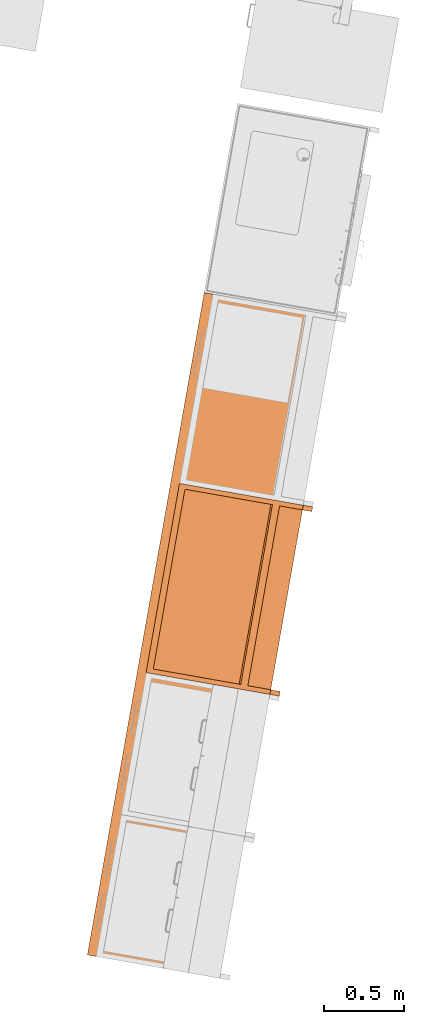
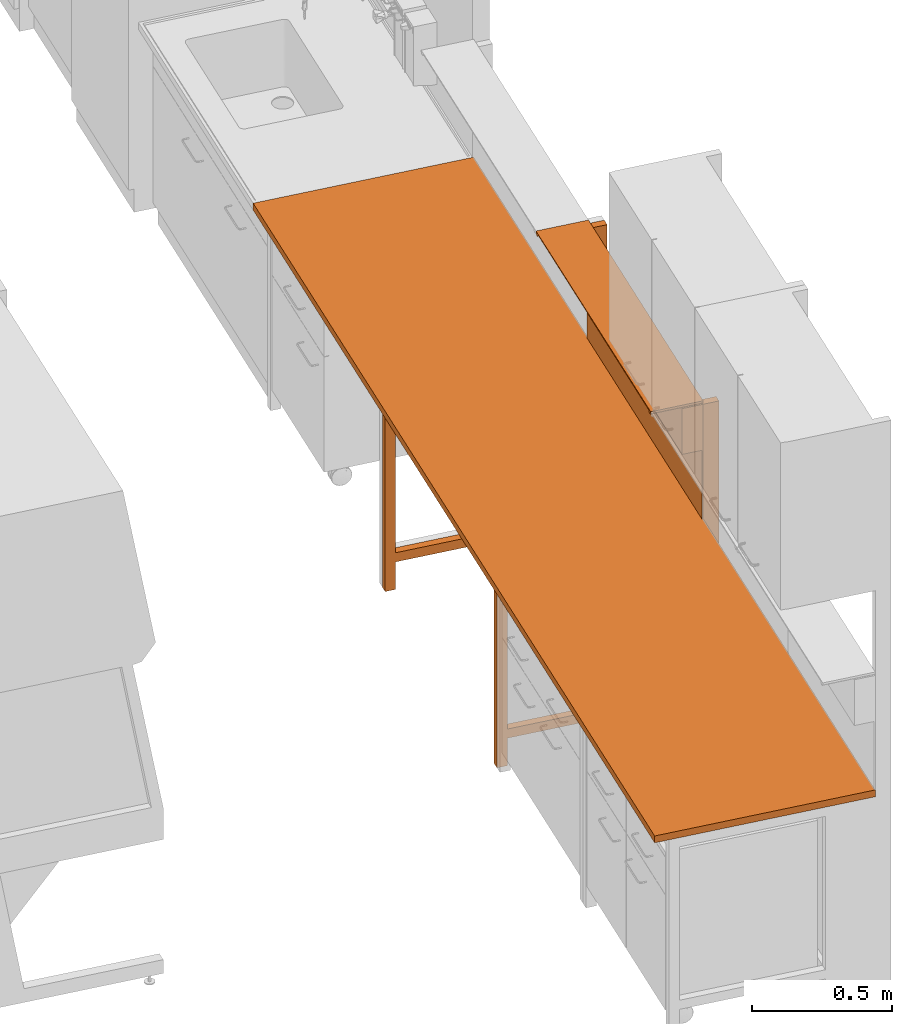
# One storey, part 28 of 43: 3 proxies.
"""IFC2X3 building model written with IfcOpenShell, lengths in metres."""

from ifc_helpers import new_model, entity, si_unit, converted_unit, derived_unit, direction, frame, frame_2d, origin, origin_2d_with_axis, place, context, subcontext, project, spatial, polyline, circle_curve, parameter, trimmed, segment, composite_curve, rectangle, outline, extrude, faceted_brep, source, transform, mapped, material, material_list, type_object, type_shapes, element, save


model = new_model("IFC2X3")

# Units and contexts
model_context = context("Model", 3, precision=1e-05, world=origin(), true_north=direction((6.12303176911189e-17, 1.0)))
body_context = subcontext(model_context, "Body", "Model", "MODEL_VIEW")
ifc_project = project(units=[si_unit("LENGTHUNIT", "METRE"), si_unit("AREAUNIT", "SQUARE_METRE"), si_unit("VOLUMEUNIT", "CUBIC_METRE"), converted_unit("PLANEANGLEUNIT", "DEGREE", entity("IfcRatioMeasure", 0.0174532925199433), si_unit("PLANEANGLEUNIT", "RADIAN"), dimensions=[0, 0, 0, 0, 0, 0, 0]), si_unit("MASSUNIT", "GRAM", prefix="KILO"), derived_unit("MASSDENSITYUNIT", [(si_unit("MASSUNIT", "GRAM", prefix="KILO"), 1), (si_unit("LENGTHUNIT", "METRE"), -3)]), derived_unit("MOMENTOFINERTIAUNIT", [(si_unit("LENGTHUNIT", "METRE"), 4)]), si_unit("TIMEUNIT", "SECOND"), si_unit("FREQUENCYUNIT", "HERTZ"), si_unit("THERMODYNAMICTEMPERATUREUNIT", "DEGREE_CELSIUS"), derived_unit("THERMALTRANSMITTANCEUNIT", [(si_unit("MASSUNIT", "GRAM", prefix="KILO"), 1), (si_unit("THERMODYNAMICTEMPERATUREUNIT", "KELVIN"), -1), (si_unit("TIMEUNIT", "SECOND"), -3)]), derived_unit("VOLUMETRICFLOWRATEUNIT", [(si_unit("LENGTHUNIT", "METRE"), 3), (si_unit("TIMEUNIT", "SECOND"), -1)]), si_unit("ELECTRICCURRENTUNIT", "AMPERE"), si_unit("ELECTRICVOLTAGEUNIT", "VOLT"), si_unit("POWERUNIT", "WATT"), si_unit("FORCEUNIT", "NEWTON", prefix="KILO"), si_unit("ILLUMINANCEUNIT", "LUX"), si_unit("LUMINOUSFLUXUNIT", "LUMEN"), si_unit("LUMINOUSINTENSITYUNIT", "CANDELA"), derived_unit("USERDEFINED", [(si_unit("MASSUNIT", "GRAM", prefix="KILO"), -1), (si_unit("LENGTHUNIT", "METRE"), -2), (si_unit("TIMEUNIT", "SECOND"), 3), (si_unit("LUMINOUSFLUXUNIT", "LUMEN"), 1)]), derived_unit("LINEARVELOCITYUNIT", [(si_unit("LENGTHUNIT", "METRE"), 1), (si_unit("TIMEUNIT", "SECOND"), -1)]), si_unit("PRESSUREUNIT", "PASCAL"), derived_unit("USERDEFINED", [(si_unit("LENGTHUNIT", "METRE"), -2), (si_unit("MASSUNIT", "GRAM", prefix="KILO"), 1), (si_unit("TIMEUNIT", "SECOND"), -2)]), derived_unit("LINEARFORCEUNIT", [(si_unit("MASSUNIT", "GRAM", prefix="KILO"), 1), (si_unit("LENGTHUNIT", "METRE"), 1), (si_unit("TIMEUNIT", "SECOND"), -2), (si_unit("LENGTHUNIT", "METRE"), -1)]), derived_unit("PLANARFORCEUNIT", [(si_unit("MASSUNIT", "GRAM", prefix="KILO"), 1), (si_unit("LENGTHUNIT", "METRE"), 1), (si_unit("TIMEUNIT", "SECOND"), -2), (si_unit("LENGTHUNIT", "METRE"), -2)])], contexts=[model_context])

# Site, building, storey
site_placement = place(None, origin())
site = spatial("IfcSite", under=ifc_project, at=site_placement, Name="Default", CompositionType="ELEMENT")
building_placement = place(site_placement, origin())
building = spatial("IfcBuilding", under=site, at=building_placement, CompositionType="ELEMENT")
storey_placement = place(building_placement, frame((0.0, 0.0, 3.0)))
storey = spatial("IfcBuildingStorey", under=building, at=storey_placement, Name="01 OG", CompositionType="ELEMENT", Elevation=3.0)

# Proxies
ifc_material_1 = material(Name="dh_Weiß")
ifc_material_2 = material(Name="dh_Glas WHS")
ifc_material_3 = material(Name="dh_Blau")
ifc_material_list_1 = material_list([ifc_material_1, ifc_material_2, ifc_material_3])
ifc_material_list_2 = material_list([ifc_material_2, ifc_material_3, ifc_material_1])
building_element_proxy_type_1 = type_object("IfcBuildingElementProxyType", Name="dh_Medienwand WHA:120 Stehtisch", PredefinedType="NOTDEFINED", material=ifc_material_list_2)
shared_shape_1 = source(origin(), body_context, "Body", "SweptSolid", [
    extrude(outline(composite_curve([segment(trimmed(circle_curve(frame_2d((0.0, 0.0), x_axis=(-1.0, 0.0)), 0.01), [parameter(0.0)], [parameter(180.0)], True, "PARAMETER"), True, "CONTINUOUS"), segment(polyline([(0.01, 0.0), (-0.01, 0.0)]), True, "CONTINUOUS")], self_intersect=False)), frame((-0.589999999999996, 0.1, 1.40999999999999), z_axis=(0.0, -1.0, 0.0), x_axis=(1.0, 0.0, 0.0)), (0.0, 0.0, -1.0), 0.2),
    extrude(outline(composite_curve([segment(trimmed(circle_curve(origin_2d_with_axis(), 0.00999999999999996), [parameter(0.0)], [parameter(180.0)], True, "PARAMETER"), True, "CONTINUOUS"), segment(polyline([(-0.0099999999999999, 0.0), (0.0099999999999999, 0.0)]), True, "CONTINUOUS")], self_intersect=False)), frame((0.590000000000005, 0.1, 1.40999999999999), z_axis=(0.0, 1.0, 0.0), x_axis=(1.0, 0.0, 0.0)), (0.0, 0.0, 1.0), 0.2),
    extrude(rectangle(XDim=1.2, YDim=0.2, at=origin_2d_with_axis()), frame((0.0, 0.2, 1.40999999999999), z_axis=(0.0, 0.0, 1.0), x_axis=(-1.0, 0.0, 0.0)), (0.0, 0.0, 1.0), 0.00499999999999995),
    extrude(rectangle(XDim=0.00500000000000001, YDim=1.2, at=frame_2d((-3.38271077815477e-17, 0.0), x_axis=(1.0, 0.0))), frame((0.0, 0.2975, 0.900000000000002), z_axis=(0.0, 0.0, 1.0), x_axis=(0.0, 1.0, 0.0)), (0.0, 0.0, 1.0), 0.299999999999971),
    extrude(rectangle(XDim=1.2, YDim=0.08, at=frame_2d((0.0, 3.46944695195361e-17), x_axis=(1.0, 0.0))), frame((0.0, 0.26, 1.20000000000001), z_axis=(0.0, 0.0, 1.0), x_axis=(-1.0, 0.0, 0.0)), (0.0, 0.0, 1.0), 0.199999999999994),
])
type_shapes(building_element_proxy_type_1, [shared_shape_1])
proxy_1_placement = place(storey_placement, frame((28.9226022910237, 8.24983662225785, 0.0), z_axis=(0.0, 0.0, 1.0), x_axis=(-0.173648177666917, -0.98480775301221, 0.0)))
element("IfcBuildingElementProxy", 1, at=proxy_1_placement, inside=storey, type_object=building_element_proxy_type_1, material=ifc_material_list_1, Name="dh_Medienwand WHA:120 Stehtisch", ObjectType="dh_Medienwand WHA:120 Stehtisch", context=body_context, shape_type="MappedRepresentation", body=[
    mapped(shared_shape_1, transform((0.0, 0.0, 0.0), scale=1.0)),
])
ifc_material_4 = material(Name="dh_EZ blau")
ifc_material_5 = material(Name="Stopper")
ifc_material_list_3 = material_list([ifc_material_4, ifc_material_5, ifc_material_1])
ifc_material_6 = material(Name="<Unnamed>")
ifc_material_list_4 = material_list([ifc_material_1, ifc_material_6, ifc_material_4])
building_element_proxy_type_2 = type_object("IfcBuildingElementProxyType", Name="dh_Energiezelle ST:EZ_ST120 ohne WHS WHA", PredefinedType="NOTDEFINED", material=ifc_material_list_4)
shared_shape_2 = source(origin(), body_context, "Body", "Brep", [
    faceted_brep([(0.57, 0.0599999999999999, 1.4), (0.57, 0.0, 1.4), (0.6, 0.0, 1.4), (0.6, 0.0599999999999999, 1.4), (0.57, 0.0599999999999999, 0.0), (0.57, 0.0, 0.0), (0.6, 0.0, 0.0), (0.6, 0.0599999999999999, 0.0)], [[[0, 1, 2, 3]], [[1, 0, 4, 5]], [[2, 1, 5, 6]], [[3, 2, 6, 7]], [[0, 3, 7, 4]], [[4, 7, 6, 5]]]),
    faceted_brep([(-0.57, 0.0600000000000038, 0.0), (-0.57, 0.0, 0.0), (-0.6, 0.0, 0.0), (-0.6, 0.0600000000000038, 0.0), (-0.6, 0.0600000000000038, 1.4), (-0.57, 0.0600000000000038, 1.4), (-0.6, 0.0, 1.4), (-0.57, 0.0, 1.4)], [[[0, 1, 2, 3]], [[4, 5, 0, 3]], [[6, 4, 3, 2]], [[7, 6, 2, 1]], [[5, 7, 1, 0]], [[5, 4, 6, 7]]]),
    faceted_brep([(-0.599999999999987, -0.150000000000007, 0.01), (-0.599999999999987, -0.190000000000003, 0.01), (-0.570000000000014, -0.190000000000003, 0.01), (-0.570000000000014, -0.150000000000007, 0.01), (-0.599999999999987, -0.150000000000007, 0.0), (-0.599999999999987, -0.190000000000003, 0.0), (-0.570000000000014, -0.190000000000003, 0.0), (-0.570000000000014, -0.150000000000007, 0.0)], [[[0, 1, 2, 3]], [[1, 0, 4, 5]], [[2, 1, 5, 6]], [[3, 2, 6, 7]], [[0, 3, 7, 4]], [[4, 7, 6, 5]]]),
    faceted_brep([(-0.599999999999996, -0.745000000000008, 0.0), (-0.570000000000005, -0.745000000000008, 0.0), (-0.570000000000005, -0.785000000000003, 0.0), (-0.599999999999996, -0.785000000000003, 0.0), (-0.599999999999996, -0.785000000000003, 0.01), (-0.599999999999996, -0.745000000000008, 0.01), (-0.570000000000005, -0.785000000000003, 0.01), (-0.570000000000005, -0.745000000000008, 0.01)], [[[0, 1, 2, 3]], [[4, 5, 0, 3]], [[6, 4, 3, 2]], [[7, 6, 2, 1]], [[5, 7, 1, 0]], [[5, 4, 6, 7]]]),
    faceted_brep([(0.569999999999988, -0.190000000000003, 0.01), (0.569999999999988, -0.150000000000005, 0.01), (0.569999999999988, -0.150000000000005, 0.0), (0.569999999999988, -0.190000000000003, 0.0), (0.600000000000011, -0.190000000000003, 0.01), (0.600000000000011, -0.190000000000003, 0.0), (0.600000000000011, -0.150000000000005, 0.01), (0.600000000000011, -0.150000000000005, 0.0)], [[[0, 1, 2, 3]], [[4, 0, 3, 5]], [[6, 4, 5, 7]], [[1, 6, 7, 2]], [[2, 7, 5, 3]], [[1, 0, 4, 6]]]),
    faceted_brep([(0.569999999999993, -0.784999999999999, 0.01), (0.569999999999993, -0.744999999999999, 0.01), (0.569999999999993, -0.744999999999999, 0.0), (0.569999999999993, -0.784999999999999, 0.0), (0.600000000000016, -0.784999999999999, 0.01), (0.600000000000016, -0.784999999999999, 0.0), (0.600000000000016, -0.744999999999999, 0.01), (0.600000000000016, -0.744999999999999, 0.0)], [[[0, 1, 2, 3]], [[4, 0, 3, 5]], [[6, 4, 5, 7]], [[1, 6, 7, 2]], [[2, 7, 5, 3]], [[1, 0, 4, 6]]]),
    faceted_brep([(0.569999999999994, -0.150000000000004, 0.87), (0.569999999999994, -0.145000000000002, 0.87), (-0.570000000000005, -0.145000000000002, 0.87), (-0.570000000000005, -0.150000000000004, 0.87), (0.569999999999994, -0.150000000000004, 0.0), (-0.570000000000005, -0.150000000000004, 0.0), (-0.570000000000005, -0.145000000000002, 0.0), (0.569999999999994, -0.145000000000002, 0.0)], [[[0, 1, 2, 3]], [[4, 5, 6, 7]], [[0, 3, 5, 4]], [[3, 2, 6, 5]], [[2, 1, 7, 6]], [[1, 0, 4, 7]]]),
    faceted_brep([(-0.6, 0.0, 0.830000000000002), (-0.6, -0.150000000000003, 0.830000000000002), (-0.58, -0.150000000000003, 0.830000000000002), (-0.58, 0.0, 0.830000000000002), (-0.6, 0.0, 0.0), (-0.58, 0.0, 0.0), (-0.58, -0.150000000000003, 0.0), (-0.6, -0.150000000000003, 0.0)], [[[0, 1, 2, 3]], [[4, 5, 6, 7]], [[1, 0, 4, 7]], [[2, 1, 7, 6]], [[3, 2, 6, 5]], [[0, 3, 5, 4]]]),
    faceted_brep([(0.58, -0.150000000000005, 0.830000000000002), (0.58, 0.0, 0.830000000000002), (0.58, 0.0, 0.0), (0.58, -0.150000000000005, 0.0), (0.6, -0.150000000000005, 0.830000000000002), (0.6, -0.150000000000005, 0.0), (0.6, 0.0, 0.830000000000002), (0.6, 0.0, 0.0)], [[[0, 1, 2, 3]], [[4, 0, 3, 5]], [[6, 4, 5, 7]], [[1, 6, 7, 2]], [[2, 7, 5, 3]], [[1, 0, 4, 6]]]),
    faceted_brep([(-0.570000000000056, 0.0, 0.870000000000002), (-0.60000000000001, 0.0, 0.870000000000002), (-0.600000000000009, -0.784999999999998, 0.870000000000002), (0.599999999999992, -0.784999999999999, 0.869999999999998), (0.59999999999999, 0.0, 0.869999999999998), (0.569999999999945, 0.0, 0.869999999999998), (0.569999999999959, -0.150000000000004, 0.869999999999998), (-0.570000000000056, -0.150000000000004, 0.870000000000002), (-0.570000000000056, -0.744999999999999, 0.870000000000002), (-0.570000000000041, -0.190000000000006, 0.870000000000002), (0.569999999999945, -0.190000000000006, 0.869999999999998), (0.569999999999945, -0.744999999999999, 0.869999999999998), (-0.60000000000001, 0.0, 0.830000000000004), (-0.570000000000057, 0.0, 0.830000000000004), (-0.570000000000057, -0.150000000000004, 0.830000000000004), (-0.60000000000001, -0.150000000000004, 0.830000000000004), (-0.600000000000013, -0.150000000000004, 0.0100000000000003), (-0.600000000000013, -0.190000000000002, 0.0100000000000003), (-0.60000000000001, -0.190000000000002, 0.830000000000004), (-0.60000000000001, -0.744999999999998, 0.830000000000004), (-0.600000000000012, -0.744999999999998, 0.0100000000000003), (-0.600000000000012, -0.784999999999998, 0.0100000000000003), (0.569999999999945, 0.0, 0.83), (0.569999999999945, -0.150000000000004, 0.83), (0.59999999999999, 0.0, 0.83), (0.599999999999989, -0.784999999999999, 0.00999999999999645), (0.599999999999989, -0.744999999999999, 0.00999999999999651), (0.59999999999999, -0.744999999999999, 0.83), (0.59999999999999, -0.190000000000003, 0.83), (0.599999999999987, -0.190000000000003, 0.00999999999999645), (0.599999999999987, -0.150000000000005, 0.00999999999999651), (0.59999999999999, -0.150000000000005, 0.83), (-0.570000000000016, -0.150000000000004, 0.0100000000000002), (-0.570000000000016, -0.190000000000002, 0.0100000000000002), (-0.570000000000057, -0.190000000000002, 0.830000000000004), (0.569999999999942, -0.150000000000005, 0.00999999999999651), (0.569999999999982, -0.190000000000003, 0.00999999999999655), (0.569999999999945, -0.190000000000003, 0.83), (-0.570000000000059, -0.744999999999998, 0.0100000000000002), (-0.570000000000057, -0.744999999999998, 0.830000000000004), (-0.570000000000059, -0.784999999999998, 0.0100000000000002), (-0.570000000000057, -0.784999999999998, 0.830000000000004), (0.569999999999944, -0.784999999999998, 0.83), (0.569999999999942, -0.784999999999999, 0.00999999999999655), (0.569999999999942, -0.744999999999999, 0.00999999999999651), (0.569999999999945, -0.744999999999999, 0.83)], [[[0, 1, 2, 3, 4, 5, 6, 7], [8, 9, 10, 11]], [[12, 13, 14, 15]], [[1, 0, 13, 12]], [[1, 12, 15, 16, 17, 18, 19, 20, 21, 2]], [[13, 0, 7, 14]], [[5, 22, 23, 6]], [[24, 4, 3, 25, 26, 27, 28, 29, 30, 31]], [[5, 4, 24, 22]], [[32, 33, 17, 16]], [[32, 16, 15, 14]], [[17, 33, 34, 18]], [[30, 35, 23, 31]], [[36, 29, 28, 37]], [[38, 20, 19, 39]], [[3, 2, 21, 40, 41, 42, 43, 25]], [[26, 44, 45, 27]], [[42, 41, 39, 45]], [[7, 6, 23, 14]], [[10, 9, 34, 37]], [[8, 11, 45, 39]], [[37, 34, 14, 23]], [[38, 40, 21, 20]], [[30, 29, 36, 35]], [[26, 25, 43, 44]], [[37, 45, 11, 10]], [[35, 36, 37, 23]], [[44, 43, 42, 45]], [[39, 34, 9, 8]], [[40, 38, 39, 41]], [[33, 32, 14, 34]], [[34, 39, 19, 18]], [[22, 24, 31, 23]], [[28, 27, 45, 37]]]),
    faceted_brep([(0.569999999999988, -0.170000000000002, 0.16), (-0.570000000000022, -0.170000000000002, 0.160000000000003), (-0.570000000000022, -0.190000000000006, 0.160000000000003), (0.569999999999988, -0.190000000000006, 0.16), (0.569999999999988, -0.170000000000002, 0.12), (0.569999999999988, -0.190000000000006, 0.12), (-0.570000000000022, -0.190000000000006, 0.120000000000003), (-0.570000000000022, -0.170000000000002, 0.120000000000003)], [[[0, 1, 2, 3]], [[4, 5, 6, 7]], [[1, 0, 4, 7]], [[2, 1, 7, 6]], [[3, 2, 6, 5]], [[0, 3, 5, 4]]]),
    faceted_brep([(0.569999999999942, -0.190000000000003, 0.16), (0.569999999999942, -0.744999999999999, 0.16), (0.599999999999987, -0.744999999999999, 0.16), (0.599999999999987, -0.190000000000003, 0.16), (0.569999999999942, -0.190000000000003, 0.12), (0.569999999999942, -0.744999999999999, 0.12), (0.599999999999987, -0.744999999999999, 0.12), (0.599999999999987, -0.190000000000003, 0.12)], [[[0, 1, 2, 3]], [[1, 0, 4, 5]], [[2, 1, 5, 6]], [[3, 2, 6, 7]], [[0, 3, 7, 4]], [[4, 7, 6, 5]]]),
    faceted_brep([(-0.570000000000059, -0.190000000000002, 0.120000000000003), (-0.570000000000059, -0.744999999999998, 0.120000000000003), (-0.600000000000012, -0.744999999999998, 0.120000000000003), (-0.600000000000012, -0.190000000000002, 0.120000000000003), (-0.600000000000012, -0.190000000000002, 0.160000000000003), (-0.570000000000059, -0.190000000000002, 0.160000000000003), (-0.600000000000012, -0.744999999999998, 0.160000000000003), (-0.570000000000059, -0.744999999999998, 0.160000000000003)], [[[0, 1, 2, 3]], [[4, 5, 0, 3]], [[6, 4, 3, 2]], [[7, 6, 2, 1]], [[5, 7, 1, 0]], [[5, 4, 6, 7]]]),
])
type_shapes(building_element_proxy_type_2, [shared_shape_2])
proxy_2_placement = place(storey_placement, frame((29.2180446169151, 8.19774216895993, 0.0), z_axis=(0.0, 0.0, 1.0), x_axis=(-0.173648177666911, -0.984807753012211, 0.0)))
element("IfcBuildingElementProxy", 2, at=proxy_2_placement, inside=storey, type_object=building_element_proxy_type_2, material=ifc_material_list_3, Name="dh_Energiezelle ST:EZ_ST120 ohne WHS WHA", ObjectType="dh_Energiezelle ST:EZ_ST120 ohne WHS WHA", context=body_context, shape_type="MappedRepresentation", body=[
    mapped(shared_shape_2, transform((0.0, 0.0, 0.0), scale=1.0)),
])
ifc_material_7 = material(Name="Arbeitsplatte mit fester Oberfläche")
ifc_material_8 = material(Name="Phenolharz")
ifc_material_list_5 = material_list([ifc_material_7, ifc_material_8])
ifc_material_list_6 = material_list([ifc_material_8, ifc_material_7])
building_element_proxy_type_3 = type_object("IfcBuildingElementProxyType", Name="dh_Tischplatte PH:TP PH", PredefinedType="NOTDEFINED", material=ifc_material_list_6)
shared_shape_3 = source(origin(), body_context, "Body", "SweptSolid", [
    extrude(rectangle(XDim=4.19999999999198, YDim=0.840000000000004, at=origin_2d_with_axis()), frame((0.0447003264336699, -0.420000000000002, 0.871999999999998), z_axis=(0.0, 0.0, 1.0), x_axis=(-1.0, 0.0, 0.0)), (0.0, 0.0, 1.0), 0.0260000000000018),
    extrude(rectangle(XDim=4.19999999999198, YDim=0.840000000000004, at=origin_2d_with_axis()), frame((0.0447003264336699, -0.420000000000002, 0.869999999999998), z_axis=(0.0, 0.0, 1.0), x_axis=(-1.0, 0.0, 0.0)), (0.0, 0.0, 1.0), 0.00199999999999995),
    extrude(rectangle(XDim=4.19999999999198, YDim=0.840000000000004, at=origin_2d_with_axis()), frame((0.0447003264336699, -0.420000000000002, 0.898), z_axis=(0.0, 0.0, 1.0), x_axis=(-1.0, 0.0, 0.0)), (0.0, 0.0, 1.0), 0.00200000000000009),
])
type_shapes(building_element_proxy_type_3, [shared_shape_3])
proxy_3_placement = place(storey_placement, frame((29.173712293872, 7.946321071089, 0.0), z_axis=(0.0, 0.0, 1.0), x_axis=(-0.173648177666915, -0.984807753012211, 0.0)))
element("IfcBuildingElementProxy", 3, at=proxy_3_placement, inside=storey, type_object=building_element_proxy_type_3, material=ifc_material_list_5, Name="dh_Tischplatte PH:TP PH", ObjectType="dh_Tischplatte PH:TP PH", context=body_context, shape_type="MappedRepresentation", body=[
    mapped(shared_shape_3, transform((0.0, 0.0, 0.0), scale=1.0)),
])

save(model, "model.ifc")
